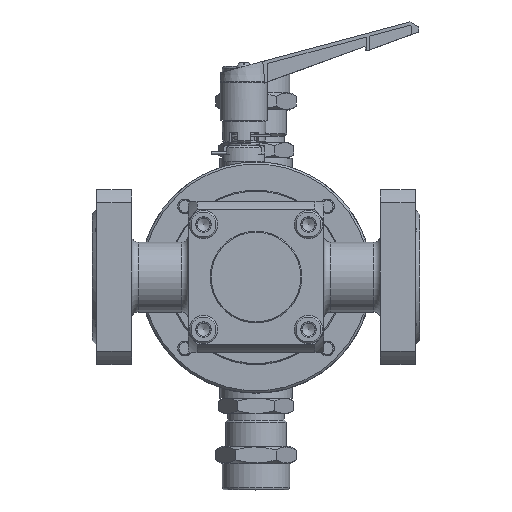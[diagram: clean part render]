
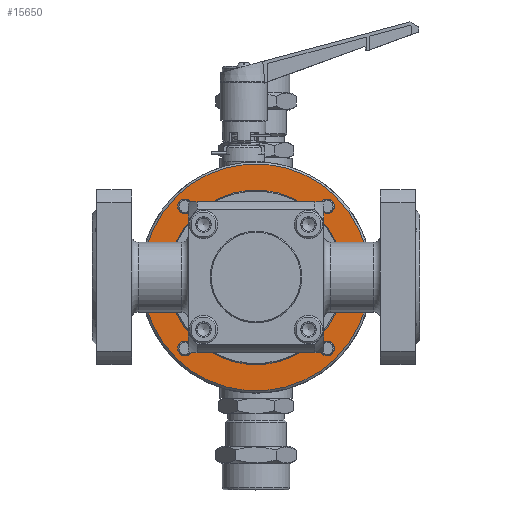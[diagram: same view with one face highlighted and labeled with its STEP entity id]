
A CAD part, top view. The second image highlights one B-rep face of the part: STEP entity #15650.
In plain terms, the highlighted planar face has unit normal (0, 0, 1).
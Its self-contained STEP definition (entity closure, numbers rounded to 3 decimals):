
#15650=ADVANCED_FACE('',(#35870,#35872,#35874,#35876,#35878,#35880),#35882,.T.);
#35870=FACE_BOUND('',#35871,.T.);
#35871=EDGE_LOOP('',(#58123));
#35872=FACE_BOUND('',#35873,.T.);
#35873=EDGE_LOOP('',(#58124));
#35874=FACE_BOUND('',#35875,.T.);
#35875=EDGE_LOOP('',(#58125));
#35876=FACE_BOUND('',#35877,.T.);
#35877=EDGE_LOOP('',(#58126));
#35878=FACE_BOUND('',#35879,.T.);
#35879=EDGE_LOOP('',(#58127));
#35880=FACE_BOUND('',#35881,.T.);
#35881=EDGE_LOOP('',(#58128));
#35882=PLANE('',#35883);
#35883=AXIS2_PLACEMENT_3D('',#35884,#35885,#35886);
#35884=CARTESIAN_POINT('',(0.,0.,-63.));
#35885=DIRECTION('',(0.,0.,1.));
#35886=DIRECTION('',(0.707,-0.707,0.));
#58123=ORIENTED_EDGE('',*,*,#68590,.F.);
#58124=ORIENTED_EDGE('',*,*,#68638,.T.);
#58125=ORIENTED_EDGE('',*,*,#68639,.T.);
#58126=ORIENTED_EDGE('',*,*,#68640,.T.);
#58127=ORIENTED_EDGE('',*,*,#68641,.T.);
#58128=ORIENTED_EDGE('',*,*,#68642,.T.);
#68590=EDGE_CURVE('',#80179,#80179,#80180,.T.);
#68638=EDGE_CURVE('',#80275,#80275,#80276,.F.);
#68639=EDGE_CURVE('',#80277,#80277,#80278,.F.);
#68640=EDGE_CURVE('',#80279,#80279,#80280,.T.);
#68641=EDGE_CURVE('',#80281,#80281,#80282,.F.);
#68642=EDGE_CURVE('',#80283,#80283,#80284,.F.);
#80179=VERTEX_POINT('',#109022);
#80180=CIRCLE('',#109023,52.);
#80275=VERTEX_POINT('',#109342);
#80276=CIRCLE('',#109343,3.323);
#80277=VERTEX_POINT('',#109347);
#80278=CIRCLE('',#109348,3.323);
#80279=VERTEX_POINT('',#109352);
#80280=CIRCLE('',#109353,40.);
#80281=VERTEX_POINT('',#109357);
#80282=CIRCLE('',#109358,3.323);
#80283=VERTEX_POINT('',#109362);
#80284=CIRCLE('',#109363,3.323);
#109022=CARTESIAN_POINT('',(36.77,-36.77,-63.));
#109023=AXIS2_PLACEMENT_3D('',#109024,#109025,#109026);
#109024=CARTESIAN_POINT('',(0.,0.,-63.));
#109025=DIRECTION('',(0.,0.,-1.));
#109026=DIRECTION('',(0.707,-0.707,0.));
#109342=CARTESIAN_POINT('',(-34.877,-34.877,-63.));
#109343=AXIS2_PLACEMENT_3D('',#109344,#109345,#109346);
#109344=CARTESIAN_POINT('',(-32.527,-32.527,-63.));
#109345=DIRECTION('',(0.,0.,1.));
#109346=DIRECTION('',(-0.707,-0.707,0.));
#109347=CARTESIAN_POINT('',(30.177,30.177,-63.));
#109348=AXIS2_PLACEMENT_3D('',#109349,#109350,#109351);
#109349=CARTESIAN_POINT('',(32.527,32.527,-63.));
#109350=DIRECTION('',(0.,0.,1.));
#109351=DIRECTION('',(-0.707,-0.707,0.));
#109352=CARTESIAN_POINT('',(28.284,-28.284,-63.));
#109353=AXIS2_PLACEMENT_3D('',#109354,#109355,#109356);
#109354=CARTESIAN_POINT('',(0.,0.,-63.));
#109355=DIRECTION('',(0.,0.,-1.));
#109356=DIRECTION('',(0.707,-0.707,0.));
#109357=CARTESIAN_POINT('',(30.177,-34.877,-63.));
#109358=AXIS2_PLACEMENT_3D('',#109359,#109360,#109361);
#109359=CARTESIAN_POINT('',(32.527,-32.527,-63.));
#109360=DIRECTION('',(0.,0.,1.));
#109361=DIRECTION('',(-0.707,-0.707,0.));
#109362=CARTESIAN_POINT('',(-34.877,30.177,-63.));
#109363=AXIS2_PLACEMENT_3D('',#109364,#109365,#109366);
#109364=CARTESIAN_POINT('',(-32.527,32.527,-63.));
#109365=DIRECTION('',(0.,0.,1.));
#109366=DIRECTION('',(-0.707,-0.707,0.));
